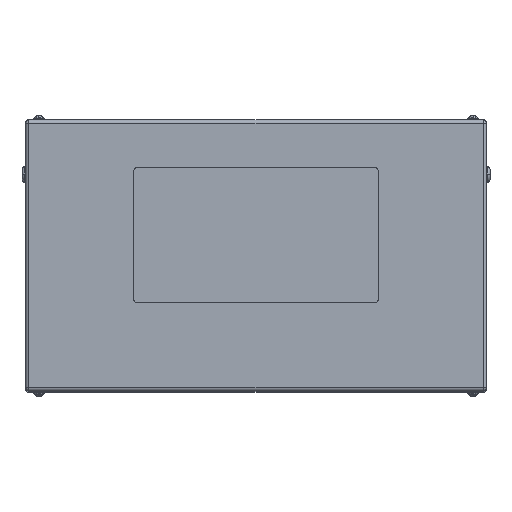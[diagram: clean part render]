
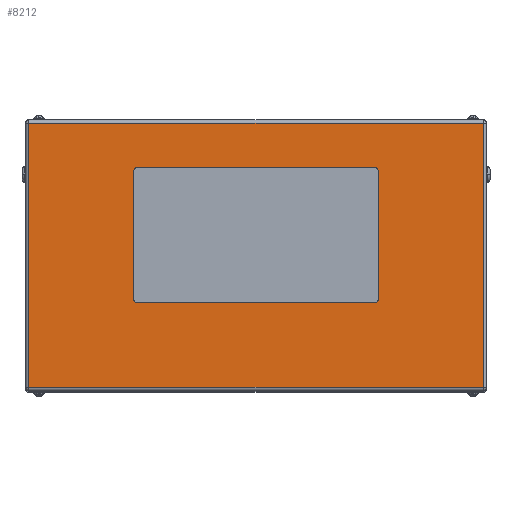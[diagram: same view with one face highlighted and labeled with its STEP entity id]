
A CAD part, top view. The second image highlights one B-rep face of the part: STEP entity #8212.
In plain terms, the highlighted planar face has unit normal (0, 0, 1).
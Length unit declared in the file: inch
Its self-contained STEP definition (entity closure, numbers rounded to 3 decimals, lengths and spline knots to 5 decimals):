
#22 = DIRECTION ( 'NONE',  ( 1., 0., 0. ) ) ;
#77 = EDGE_CURVE ( 'NONE', #3624, #11818, #10071, .T. ) ;
#184 = CARTESIAN_POINT ( 'NONE',  ( -9., 6.25, 25. ) ) ;
#1259 = DIRECTION ( 'NONE',  ( 1., 0., 0. ) ) ;
#1347 = DIRECTION ( 'NONE',  ( -1., 0., 0. ) ) ;
#1364 = VERTEX_POINT ( 'NONE', #11750 ) ;
#1368 = CIRCLE ( 'NONE', #7086, 0.25 ) ;
#2191 = EDGE_CURVE ( 'NONE', #8998, #11388, #19137, .T. ) ;
#2874 = EDGE_LOOP ( 'NONE', ( #15267, #13882, #18814, #8985 ) ) ;
#2958 = EDGE_CURVE ( 'NONE', #17183, #3097, #1368, .T. ) ;
#2988 = VECTOR ( 'NONE', #13491, 39.37008 ) ;
#3057 = CIRCLE ( 'NONE', #4725, 0.25 ) ;
#3097 = VERTEX_POINT ( 'NONE', #184 ) ;
#3272 = VECTOR ( 'NONE', #6713, 39.37008 ) ;
#3299 = ORIENTED_EDGE ( 'NONE', *, *, #2191, .F. ) ;
#3442 = VECTOR ( 'NONE', #20023, 39.37008 ) ;
#3624 = VERTEX_POINT ( 'NONE', #10146 ) ;
#3953 = EDGE_CURVE ( 'NONE', #11818, #1364, #16327, .T. ) ;
#4214 = EDGE_LOOP ( 'NONE', ( #8941, #3299, #14155, #14034, #10691, #10910, #13484, #16825 ) ) ;
#4650 = CARTESIAN_POINT ( 'NONE',  ( -8.75, -3.25, 25. ) ) ;
#4725 = AXIS2_PLACEMENT_3D ( 'NONE', #12182, #8704, #19959 ) ;
#4911 = EDGE_CURVE ( 'NONE', #16823, #6723, #6422, .T. ) ;
#5043 = DIRECTION ( 'NONE',  ( -1., 0., 0. ) ) ;
#6191 = DIRECTION ( 'NONE',  ( -1., 0., 0. ) ) ;
#6422 = CIRCLE ( 'NONE', #19875, 0.25 ) ;
#6713 = DIRECTION ( 'NONE',  ( 0., -1., 0. ) ) ;
#6723 = VERTEX_POINT ( 'NONE', #15371 ) ;
#7086 = AXIS2_PLACEMENT_3D ( 'NONE', #20256, #18690, #18786 ) ;
#7302 = CARTESIAN_POINT ( 'NONE',  ( -8.75, 6.5, 25. ) ) ;
#7662 = PLANE ( 'NONE',  #20704 ) ;
#8035 = CARTESIAN_POINT ( 'NONE',  ( 9., -3.25, 25. ) ) ;
#8212 = ADVANCED_FACE ( 'NONE', ( #12088, #13650 ), #7662, .F. ) ;
#8421 = DIRECTION ( 'NONE',  ( 0., 1., 0. ) ) ;
#8479 = CARTESIAN_POINT ( 'NONE',  ( -16.734, -9.734, 25. ) ) ;
#8672 = EDGE_CURVE ( 'NONE', #6723, #17183, #8874, .T. ) ;
#8704 = DIRECTION ( 'NONE',  ( 0., 0., 1. ) ) ;
#8776 = LINE ( 'NONE', #13600, #2988 ) ;
#8874 = LINE ( 'NONE', #7302, #13637 ) ;
#8941 = ORIENTED_EDGE ( 'NONE', *, *, #17199, .F. ) ;
#8985 = ORIENTED_EDGE ( 'NONE', *, *, #18956, .T. ) ;
#8998 = VERTEX_POINT ( 'NONE', #9134 ) ;
#9134 = CARTESIAN_POINT ( 'NONE',  ( -9., -3.25, 25. ) ) ;
#9259 = CARTESIAN_POINT ( 'NONE',  ( 9., 6.25, 25. ) ) ;
#9332 = CARTESIAN_POINT ( 'NONE',  ( 17., 10., 25. ) ) ;
#9712 = EDGE_CURVE ( 'NONE', #3097, #8998, #8776, .T. ) ;
#10071 = LINE ( 'NONE', #14616, #3272 ) ;
#10146 = CARTESIAN_POINT ( 'NONE',  ( -16.734, 9.734, 25. ) ) ;
#10324 = VERTEX_POINT ( 'NONE', #8035 ) ;
#10466 = VERTEX_POINT ( 'NONE', #12300 ) ;
#10487 = CARTESIAN_POINT ( 'NONE',  ( -8.75, 6.5, 25. ) ) ;
#10691 = ORIENTED_EDGE ( 'NONE', *, *, #8672, .F. ) ;
#10694 = LINE ( 'NONE', #12716, #18516 ) ;
#10910 = ORIENTED_EDGE ( 'NONE', *, *, #4911, .F. ) ;
#11111 = VERTEX_POINT ( 'NONE', #12251 ) ;
#11366 = CARTESIAN_POINT ( 'NONE',  ( 17., 9.734, 25. ) ) ;
#11388 = VERTEX_POINT ( 'NONE', #15162 ) ;
#11486 = EDGE_CURVE ( 'NONE', #10324, #16823, #17257, .T. ) ;
#11750 = CARTESIAN_POINT ( 'NONE',  ( 16.734, -9.734, 25. ) ) ;
#11799 = VECTOR ( 'NONE', #6191, 39.37008 ) ;
#11818 = VERTEX_POINT ( 'NONE', #8479 ) ;
#12088 = FACE_BOUND ( 'NONE', #4214, .T. ) ;
#12182 = CARTESIAN_POINT ( 'NONE',  ( 8.75, -3.25, 25. ) ) ;
#12251 = CARTESIAN_POINT ( 'NONE',  ( 16.734, 9.734, 25. ) ) ;
#12300 = CARTESIAN_POINT ( 'NONE',  ( 8.75, -3.5, 25. ) ) ;
#12716 = CARTESIAN_POINT ( 'NONE',  ( -8.75, -3.5, 25. ) ) ;
#13276 = DIRECTION ( 'NONE',  ( 1., 0., 0. ) ) ;
#13484 = ORIENTED_EDGE ( 'NONE', *, *, #11486, .F. ) ;
#13491 = DIRECTION ( 'NONE',  ( 0., -1., 0. ) ) ;
#13600 = CARTESIAN_POINT ( 'NONE',  ( -9., 6.25, 25. ) ) ;
#13637 = VECTOR ( 'NONE', #14911, 39.37008 ) ;
#13650 = FACE_OUTER_BOUND ( 'NONE', #2874, .T. ) ;
#13882 = ORIENTED_EDGE ( 'NONE', *, *, #3953, .T. ) ;
#14034 = ORIENTED_EDGE ( 'NONE', *, *, #2958, .F. ) ;
#14155 = ORIENTED_EDGE ( 'NONE', *, *, #9712, .F. ) ;
#14531 = VECTOR ( 'NONE', #8421, 39.37008 ) ;
#14616 = CARTESIAN_POINT ( 'NONE',  ( -16.734, 10., 25. ) ) ;
#14911 = DIRECTION ( 'NONE',  ( -1., 0., 0. ) ) ;
#15162 = CARTESIAN_POINT ( 'NONE',  ( -8.75, -3.5, 25. ) ) ;
#15267 = ORIENTED_EDGE ( 'NONE', *, *, #77, .T. ) ;
#15371 = CARTESIAN_POINT ( 'NONE',  ( 8.75, 6.5, 25. ) ) ;
#15393 = LINE ( 'NONE', #16763, #3442 ) ;
#15747 = DIRECTION ( 'NONE',  ( 0., 0., -1. ) ) ;
#15928 = DIRECTION ( 'NONE',  ( 0., 0., 1. ) ) ;
#16327 = LINE ( 'NONE', #20601, #17256 ) ;
#16395 = DIRECTION ( 'NONE',  ( 0., 0., 1. ) ) ;
#16434 = AXIS2_PLACEMENT_3D ( 'NONE', #4650, #15928, #13276 ) ;
#16511 = CARTESIAN_POINT ( 'NONE',  ( 8.75, 6.25, 25. ) ) ;
#16763 = CARTESIAN_POINT ( 'NONE',  ( 16.734, 10., 25. ) ) ;
#16823 = VERTEX_POINT ( 'NONE', #18035 ) ;
#16825 = ORIENTED_EDGE ( 'NONE', *, *, #19337, .F. ) ;
#17183 = VERTEX_POINT ( 'NONE', #10487 ) ;
#17199 = EDGE_CURVE ( 'NONE', #11388, #10466, #10694, .T. ) ;
#17256 = VECTOR ( 'NONE', #22, 39.37008 ) ;
#17257 = LINE ( 'NONE', #9259, #14531 ) ;
#17569 = EDGE_CURVE ( 'NONE', #1364, #11111, #15393, .T. ) ;
#18035 = CARTESIAN_POINT ( 'NONE',  ( 9., 6.25, 25. ) ) ;
#18516 = VECTOR ( 'NONE', #1259, 39.37008 ) ;
#18690 = DIRECTION ( 'NONE',  ( 0., 0., 1. ) ) ;
#18786 = DIRECTION ( 'NONE',  ( 1., 0., 0. ) ) ;
#18814 = ORIENTED_EDGE ( 'NONE', *, *, #17569, .T. ) ;
#18956 = EDGE_CURVE ( 'NONE', #11111, #3624, #20489, .T. ) ;
#19137 = CIRCLE ( 'NONE', #16434, 0.25 ) ;
#19337 = EDGE_CURVE ( 'NONE', #10466, #10324, #3057, .T. ) ;
#19875 = AXIS2_PLACEMENT_3D ( 'NONE', #16511, #16395, #5043 ) ;
#19959 = DIRECTION ( 'NONE',  ( 1., 0., 0. ) ) ;
#20023 = DIRECTION ( 'NONE',  ( 0., 1., 0. ) ) ;
#20256 = CARTESIAN_POINT ( 'NONE',  ( -8.75, 6.25, 25. ) ) ;
#20489 = LINE ( 'NONE', #11366, #11799 ) ;
#20601 = CARTESIAN_POINT ( 'NONE',  ( 16.734, -9.734, 25. ) ) ;
#20704 = AXIS2_PLACEMENT_3D ( 'NONE', #9332, #15747, #1347 ) ;
